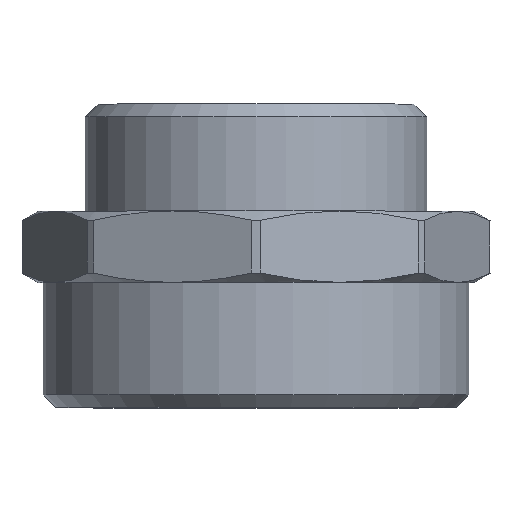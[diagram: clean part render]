
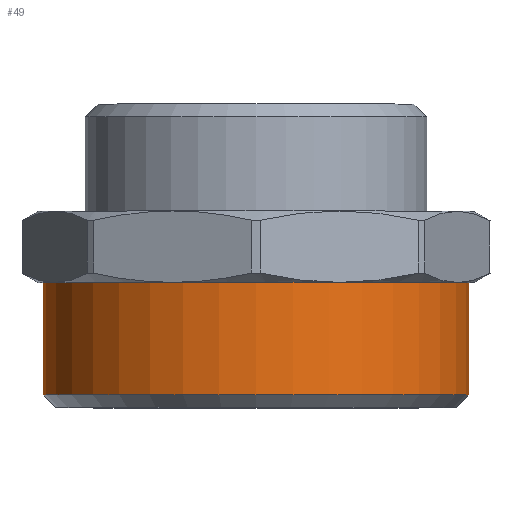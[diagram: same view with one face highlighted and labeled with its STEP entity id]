
A CAD part, top view. The second image highlights one B-rep face of the part: STEP entity #49.
In plain terms, the highlighted cylindrical face has radius 29.807 mm (diameter 59.614 mm), a full revolution.
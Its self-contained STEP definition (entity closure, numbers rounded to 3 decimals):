
#49=ADVANCED_FACE('',(#129,#131),#133,.T.);
#129=FACE_OUTER_BOUND('',#130,.T.);
#130=EDGE_LOOP('',(#402));
#131=FACE_OUTER_BOUND('',#132,.T.);
#132=EDGE_LOOP('',(#403));
#133=CYLINDRICAL_SURFACE('',#134,29.807);
#134=AXIS2_PLACEMENT_3D('',#135,#136,#137);
#135=CARTESIAN_POINT('',(0.,-5.,0.));
#136=DIRECTION('',(0.,-1.,0.));
#137=DIRECTION('',(1.,0.,0.));
#402=ORIENTED_EDGE('',*,*,#563,.T.);
#403=ORIENTED_EDGE('',*,*,#564,.F.);
#563=EDGE_CURVE('',#653,#653,#654,.T.);
#564=EDGE_CURVE('',#655,#655,#656,.T.);
#653=VERTEX_POINT('',#816);
#654=CIRCLE('',#817,29.807);
#655=VERTEX_POINT('',#821);
#656=CIRCLE('',#822,29.807);
#816=CARTESIAN_POINT('',(29.807,-5.,0.));
#817=AXIS2_PLACEMENT_3D('',#818,#819,#820);
#818=CARTESIAN_POINT('',(0.,-5.,0.));
#819=DIRECTION('',(0.,-1.,0.));
#820=DIRECTION('',(1.,0.,0.));
#821=CARTESIAN_POINT('',(29.807,-20.7,0.));
#822=AXIS2_PLACEMENT_3D('',#823,#824,#825);
#823=CARTESIAN_POINT('',(0.,-20.7,0.));
#824=DIRECTION('',(0.,-1.,0.));
#825=DIRECTION('',(1.,0.,0.));
